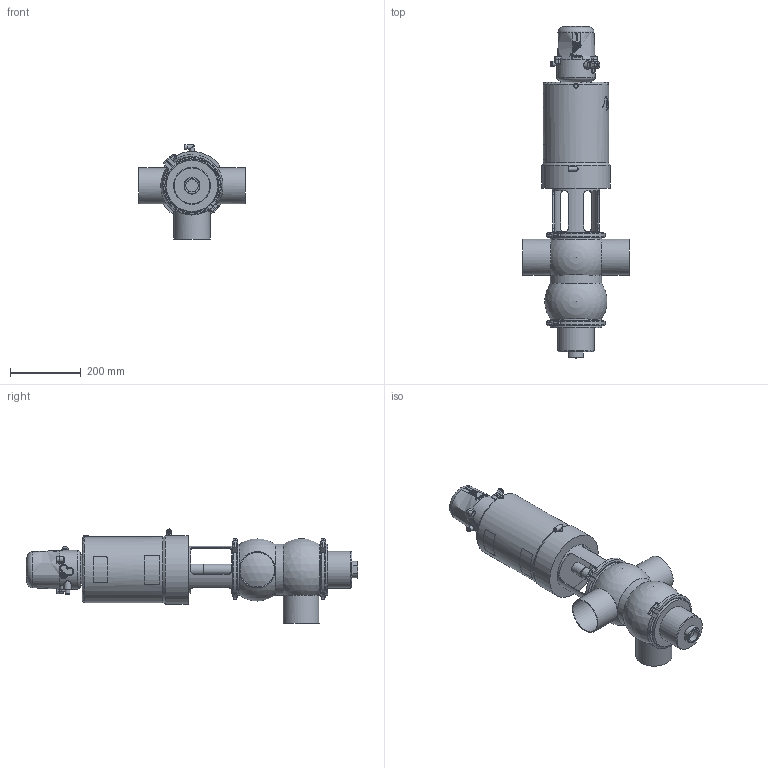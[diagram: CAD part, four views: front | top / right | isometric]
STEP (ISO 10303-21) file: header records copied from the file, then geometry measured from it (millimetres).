
FILE_DESCRIPTION (( 'STEP AP214' ), '1' );
FILE_NAME ('INNOVA S AB-90 W OD 4 & C-TOP S_10.251.16.0011.STEP', '2024-08-19T11:03:09', ( '' ), ( '' ), 'SwSTEP 2.0', 'SolidWorks 2023', '' );
FILE_SCHEMA (( 'AUTOMOTIVE_DESIGN' ));
Length unit declared in the file: millimetre
Products named in the file (7): 10.240.15.0001_DN 100; 10.251.15.0002_DN 4"; 10.251.15.0003_OD 4"; 10.250.15.0002_Type S T3; 10.426.15.0001_C-TOP S - 1 EV; INNOVA S AB-90 W OD 4 & C-TOP S_10.251.16.0011; 10.251.15.0001_OD 4"
Assembly tree (7 placements, depth 2):
  INNOVA S AB-90 W OD 4 & C-TOP S_10.251.16.0011
    10.251.15.0001_OD 4"
    10.250.15.0002_Type S T3
    10.426.15.0001_C-TOP S - 1 EV
    10.251.15.0003_OD 4"
    10.240.15.0001_DN 100  x2
    10.251.15.0002_DN 4"
Bounding box: 300 x 935.6 x 265 mm (x, y, z)
Volume: 16191544 mm3; surface area: 869585.9 mm2
Topology: 7 solids, 7 shells, 1189 faces, 2883 edges, 1915 vertices
Faces by surface type: plane 413, cylinder 371, cone 202, bspline 160, torus 33, sphere 10
Full cylindrical faces by diameter (mm): 0.371 x17, 0.512 x16, 0.658 x16, 0.795 x16, 0.94 x15, 1.098 x15, 1.241 x13, 1.382 x13, 1.523 x11, 1.669 x10, 2.201 x1, 4.2 x2, 5 x1, 5.5 x2, 6 x3, 6.15 x1, 8 x5, 8.5 x1, 10 x1, 10.5 x2, 11 x2, 12.5 x6, 13 x2, 13.5 x2, 17 x3, 20 x2, 22 x2, 30.5 x1, 32 x1, 35 x1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
Entity records: 59430 total; most frequent: CARTESIAN_POINT 28551, ORIENTED_EDGE 4608, DIRECTION 3715, EDGE_CURVE 2304, VERTEX_POINT 1630, EDGE_LOOP 1582, AXIS2_PLACEMENT_3D 1518, FACE_OUTER_BOUND 1344
